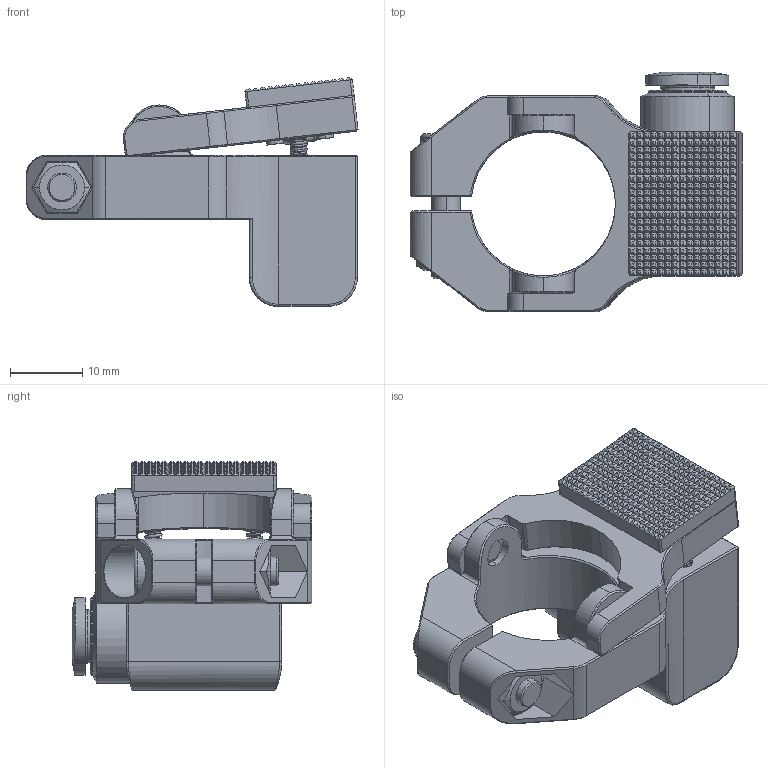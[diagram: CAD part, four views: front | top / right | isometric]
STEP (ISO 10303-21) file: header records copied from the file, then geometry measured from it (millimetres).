
FILE_DESCRIPTION (( 'STEP AP203' ), '1' );
FILE_NAME ('GFR20V-真空检测夹具栓(1).STEP', '2024-07-01T00:35:07', ( '微软用户' ), ( '微软中国' ), 'SwSTEP 2.0', 'SolidWorks 2018', '' );
FILE_SCHEMA (( 'CONFIG_CONTROL_DESIGN' ));
Products named in the file (1): GFR20V-淩諾潰聆標撿邡(1)
Bounding box: 46.08 x 33.3 x 31.74 mm (x, y, z)
Volume: 13658.9 mm3; surface area: 9326.5 mm2
Topology: 1 solids, 3 shells, 1963 faces, 4133 edges, 2192 vertices
Faces by surface type: plane 1655, cylinder 126, cone 71, torus 64, bspline 47
Entity records: 84659 total; most frequent: CARTESIAN_POINT 44028, ORIENTED_EDGE 8254, DIRECTION 8157, EDGE_CURVE 4127, LINE 3483, VECTOR 3483, AXIS2_PLACEMENT_3D 2337, VERTEX_POINT 2192
